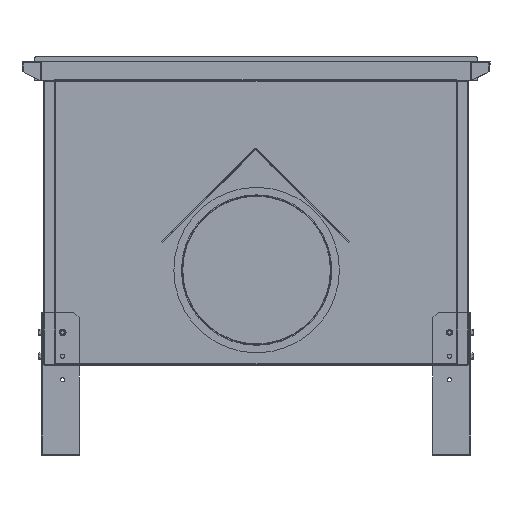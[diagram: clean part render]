
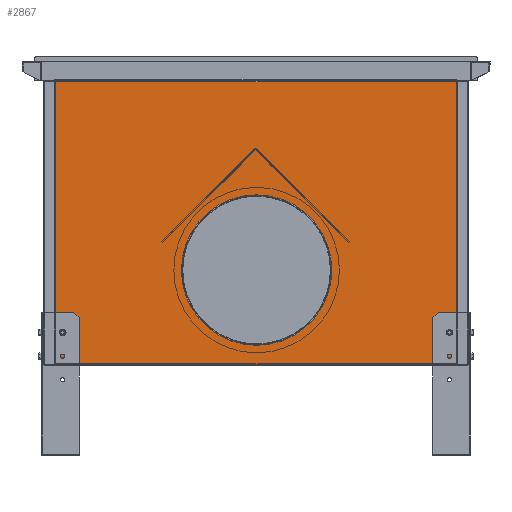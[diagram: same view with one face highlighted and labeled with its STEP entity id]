
A CAD part, left-side view. The second image highlights one B-rep face of the part: STEP entity #2867.
In plain terms, the highlighted planar face has unit normal (-1, 0, 0) as drawn and (0, 1, 0) by its records, which use the part's own axes.
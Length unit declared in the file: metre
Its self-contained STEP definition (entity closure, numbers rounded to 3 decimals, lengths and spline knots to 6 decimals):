
#2867=ADVANCED_FACE('0:6521',(#5597,#5598,#5599,#5600),#5601,.T.);
#5597=FACE_BOUND('',#8511,.T.);
#5598=FACE_BOUND('',#8512,.T.);
#5599=FACE_BOUND('',#8513,.T.);
#5600=FACE_OUTER_BOUND('',#8514,.T.);
#5601=PLANE('',#8515);
#8511=EDGE_LOOP('',(#16956,#16957,#16958,#16959,#16960,#16961));
#8512=EDGE_LOOP('',(#16962,#16963,#16964,#16965,#16966,#16967));
#8513=EDGE_LOOP('',(#16968,#16969));
#8514=EDGE_LOOP('',(#16970,#16971,#16972,#16973));
#8515=AXIS2_PLACEMENT_3D('',#16974,#16975,#16976);
#16956=ORIENTED_EDGE('',*,*,#22295,.T.);
#16957=ORIENTED_EDGE('',*,*,#22300,.T.);
#16958=ORIENTED_EDGE('',*,*,#22304,.T.);
#16959=ORIENTED_EDGE('',*,*,#22308,.T.);
#16960=ORIENTED_EDGE('',*,*,#22312,.T.);
#16961=ORIENTED_EDGE('',*,*,#22316,.T.);
#16962=ORIENTED_EDGE('',*,*,#22319,.T.);
#16963=ORIENTED_EDGE('',*,*,#22324,.T.);
#16964=ORIENTED_EDGE('',*,*,#22328,.T.);
#16965=ORIENTED_EDGE('',*,*,#22332,.T.);
#16966=ORIENTED_EDGE('',*,*,#22336,.T.);
#16967=ORIENTED_EDGE('',*,*,#22340,.T.);
#16968=ORIENTED_EDGE('',*,*,#22377,.T.);
#16969=ORIENTED_EDGE('',*,*,#22236,.T.);
#16970=ORIENTED_EDGE('',*,*,#22428,.F.);
#16971=ORIENTED_EDGE('',*,*,#22429,.F.);
#16972=ORIENTED_EDGE('',*,*,#22430,.F.);
#16973=ORIENTED_EDGE('',*,*,#22418,.F.);
#16974=CARTESIAN_POINT('',(0.494,0.00125,0.369));
#16975=DIRECTION('',(0.,1.0,0.));
#16976=DIRECTION('',(0.,0.,1.0));
#22236=EDGE_CURVE('',#26982,#26979,#26983,.T.);
#22295=EDGE_CURVE('0:48',#27087,#27088,#27089,.T.);
#22300=EDGE_CURVE('0:6619',#27088,#27096,#27097,.T.);
#22304=EDGE_CURVE('0:6628',#27096,#27102,#27103,.T.);
#22308=EDGE_CURVE('0:6637',#27102,#27108,#27109,.T.);
#22312=EDGE_CURVE('0:6646',#27108,#27114,#27115,.T.);
#22316=EDGE_CURVE('0:6655',#27114,#27087,#27120,.T.);
#22319=EDGE_CURVE('0:6661',#27123,#27124,#27125,.T.);
#22324=EDGE_CURVE('0:6673',#27124,#27132,#27133,.T.);
#22328=EDGE_CURVE('0:6682',#27132,#27138,#27139,.T.);
#22332=EDGE_CURVE('0:6691',#27138,#27144,#27145,.T.);
#22336=EDGE_CURVE('0:6700',#27144,#27150,#27151,.T.);
#22340=EDGE_CURVE('0:6709',#27150,#27123,#27156,.T.);
#22377=EDGE_CURVE('0:6781',#26979,#26982,#27193,.T.);
#22418=EDGE_CURVE('0:6874',#27246,#27250,#27254,.T.);
#22428=EDGE_CURVE('0:6895',#27268,#27246,#27269,.T.);
#22429=EDGE_CURVE('0:6898',#27270,#27268,#27271,.T.);
#22430=EDGE_CURVE('0:6901',#27250,#27270,#27272,.T.);
#26979=VERTEX_POINT('',#33595);
#26982=VERTEX_POINT('',#33599);
#26983=CIRCLE('',#33600,0.159);
#27087=VERTEX_POINT('',#33727);
#27088=VERTEX_POINT('',#33728);
#27089=LINE('',#33729,#33730);
#27096=VERTEX_POINT('',#33740);
#27097=LINE('',#33741,#33742);
#27102=VERTEX_POINT('',#33749);
#27103=LINE('',#33750,#33751);
#27108=VERTEX_POINT('',#33758);
#27109=LINE('',#33759,#33760);
#27114=VERTEX_POINT('',#33767);
#27115=LINE('',#33768,#33769);
#27120=LINE('',#33776,#33777);
#27123=VERTEX_POINT('',#33781);
#27124=VERTEX_POINT('',#33782);
#27125=LINE('',#33783,#33784);
#27132=VERTEX_POINT('',#33794);
#27133=LINE('',#33795,#33796);
#27138=VERTEX_POINT('',#33803);
#27139=LINE('',#33804,#33805);
#27144=VERTEX_POINT('',#33812);
#27145=LINE('',#33813,#33814);
#27150=VERTEX_POINT('',#33821);
#27151=LINE('',#33822,#33823);
#27156=LINE('',#33830,#33831);
#27193=CIRCLE('',#33869,0.159);
#27246=VERTEX_POINT('',#33941);
#27250=VERTEX_POINT('',#33946);
#27254=LINE('',#33951,#33952);
#27268=VERTEX_POINT('',#33972);
#27269=LINE('',#33973,#33974);
#27270=VERTEX_POINT('',#33975);
#27271=LINE('',#33976,#33977);
#27272=LINE('',#33978,#33979);
#33595=CARTESIAN_POINT('',(0.394,0.00125,0.52925));
#33599=CARTESIAN_POINT('',(0.394,0.00125,0.21125));
#33600=AXIS2_PLACEMENT_3D('',#52262,#52263,#52264);
#33727=CARTESIAN_POINT('',(0.259575,0.00125,0.7725));
#33728=CARTESIAN_POINT('',(0.265926,0.00125,0.7725));
#33729=CARTESIAN_POINT('',(0.378375,0.00125,0.7725));
#33730=VECTOR('',#52357,0.01);
#33740=CARTESIAN_POINT('',(0.269101,0.00125,0.778));
#33741=CARTESIAN_POINT('',(0.207869,0.00125,0.671942));
#33742=VECTOR('',#52361,0.01);
#33749=CARTESIAN_POINT('',(0.265926,0.00125,0.7835));
#33750=CARTESIAN_POINT('',(0.384971,0.00125,0.577308));
#33751=VECTOR('',#52364,0.01);
#33758=CARTESIAN_POINT('',(0.259575,0.00125,0.7835));
#33759=CARTESIAN_POINT('',(0.378375,0.00125,0.7835));
#33760=VECTOR('',#52367,0.01);
#33767=CARTESIAN_POINT('',(0.256399,0.00125,0.778));
#33768=CARTESIAN_POINT('',(0.198342,0.00125,0.677442));
#33769=VECTOR('',#52370,0.01);
#33776=CARTESIAN_POINT('',(0.375444,0.00125,0.571808));
#33777=VECTOR('',#52373,0.01);
#33781=CARTESIAN_POINT('',(0.265926,0.00125,-0.0345));
#33782=CARTESIAN_POINT('',(0.259575,0.00125,-0.0345));
#33783=CARTESIAN_POINT('',(0.378375,0.00125,-0.0345));
#33784=VECTOR('',#52375,0.01);
#33794=CARTESIAN_POINT('',(0.256399,0.00125,-0.04));
#33795=CARTESIAN_POINT('',(0.375444,0.00125,0.166192));
#33796=VECTOR('',#52379,0.01);
#33803=CARTESIAN_POINT('',(0.259575,0.00125,-0.0455));
#33804=CARTESIAN_POINT('',(0.198342,0.00125,0.060558));
#33805=VECTOR('',#52382,0.01);
#33812=CARTESIAN_POINT('',(0.265926,0.00125,-0.0455));
#33813=CARTESIAN_POINT('',(0.378375,0.00125,-0.0455));
#33814=VECTOR('',#52385,0.01);
#33821=CARTESIAN_POINT('',(0.269101,0.00125,-0.04));
#33822=CARTESIAN_POINT('',(0.384971,0.00125,0.160692));
#33823=VECTOR('',#52388,0.01);
#33830=CARTESIAN_POINT('',(0.207869,0.00125,0.066058));
#33831=VECTOR('',#52391,0.01);
#33869=AXIS2_PLACEMENT_3D('',#52462,#52463,#52464);
#33941=CARTESIAN_POINT('',(0.195875,0.00125,-0.054125));
#33946=CARTESIAN_POINT('',(0.792125,0.00125,-0.054125));
#33951=CARTESIAN_POINT('',(0.494,0.00125,-0.054125));
#33952=VECTOR('',#52510,0.01);
#33972=CARTESIAN_POINT('',(0.195875,0.00125,0.792125));
#33973=CARTESIAN_POINT('',(0.195875,0.00125,0.369));
#33974=VECTOR('',#52517,0.01);
#33975=CARTESIAN_POINT('',(0.792125,0.00125,0.792125));
#33976=CARTESIAN_POINT('',(0.494,0.00125,0.792125));
#33977=VECTOR('',#52518,0.01);
#33978=CARTESIAN_POINT('',(0.792125,0.00125,0.369));
#33979=VECTOR('',#52519,0.01);
#52262=CARTESIAN_POINT('',(0.394,0.00125,0.37025));
#52263=DIRECTION('',(0.,-1.0,0.));
#52264=DIRECTION('',(0.,0.,1.0));
#52357=DIRECTION('',(1.0,0.,0.));
#52361=DIRECTION('',(0.5,0.,0.866));
#52364=DIRECTION('',(-0.5,0.,0.866));
#52367=DIRECTION('',(-1.0,0.,0.));
#52370=DIRECTION('',(-0.5,0.,-0.866));
#52373=DIRECTION('',(0.5,0.,-0.866));
#52375=DIRECTION('',(-1.0,0.,0.));
#52379=DIRECTION('',(-0.5,0.,-0.866));
#52382=DIRECTION('',(0.5,0.,-0.866));
#52385=DIRECTION('',(1.0,0.,0.));
#52388=DIRECTION('',(0.5,0.,0.866));
#52391=DIRECTION('',(-0.5,0.,0.866));
#52462=CARTESIAN_POINT('',(0.394,0.00125,0.37025));
#52463=DIRECTION('',(0.,-1.0,0.));
#52464=DIRECTION('',(0.,0.,1.0));
#52510=DIRECTION('',(1.0,0.,0.));
#52517=DIRECTION('',(0.,0.,-1.0));
#52518=DIRECTION('',(-1.0,0.,0.));
#52519=DIRECTION('',(0.,0.,1.0));
